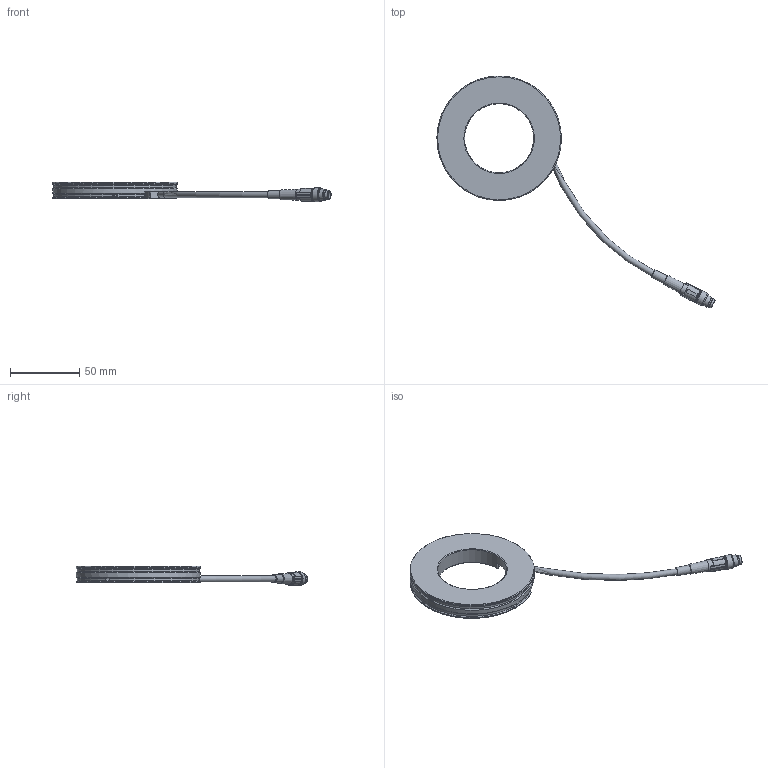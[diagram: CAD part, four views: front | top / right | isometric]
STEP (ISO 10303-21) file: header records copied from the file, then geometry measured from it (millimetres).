
FILE_DESCRIPTION(/* description */ ('Unknown','CAx-IF Rec.Pracs.---Representation and Presentation of Product Manufacturing Information (PMI)---4.0---2014-10-13','CAx-IF Rec.Pracs.---3D Tessellated Geometry---0.4---2014-09-14','2;1'),/* implementation_level */ '2;1');
FILE_NAME(/* name */ '10X.0078_BR90',/* time_stamp */ '2021-09-17T10:09:16+02:00',/* author */ ('AW'),/* organization */ ('iiM AG'),/* preprocessor_version */ 'ST-DEVELOPER v16.7',/* originating_system */ 'DEX',/* authorisation */ $);
FILE_SCHEMA (('AP242_MANAGED_MODEL_BASED_3D_ENGINEERING_MIM_LF { 1 0 10303 442 1 1 4 }'));
Length unit declared in the file: millimetre
Products named in the file (1): BR90
Bounding box: 201.22 x 167.74 x 14 mm (x, y, z)
Volume: 51857.3 mm3; surface area: 17743.7 mm2
Topology: 1 solids, 1 shells, 154 faces, 363 edges, 234 vertices
Faces by surface type: plane 71, cylinder 61, cone 15, torus 7
Full cylindrical faces by diameter (mm): 1 x4, 2.459 x3, 3.1 x2, 3.242 x8, 5.7 x1, 6 x1, 6.35 x1, 8 x2, 9 x1, 9.3 x2, 10 x1, 50 x1, 88.5 x1, 90 x2
Entity records: 5895 total; most frequent: CARTESIAN_POINT 1461, DIRECTION 705, ORIENTED_EDGE 622, EDGE_CURVE 311, AXIS2_PLACEMENT_3D 290, VERTEX_POINT 222, EDGE_LOOP 221, FACE_BOUND 221
